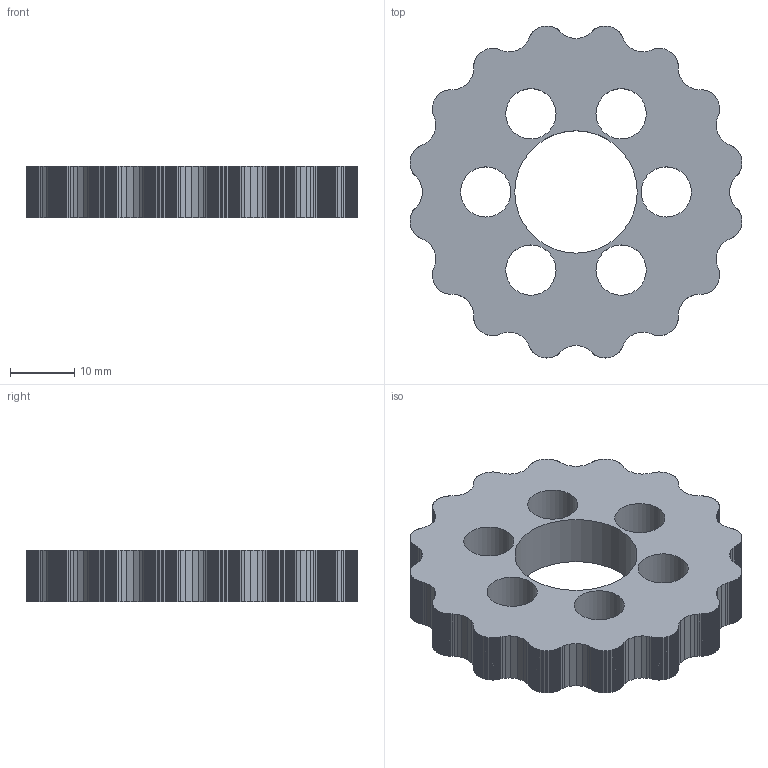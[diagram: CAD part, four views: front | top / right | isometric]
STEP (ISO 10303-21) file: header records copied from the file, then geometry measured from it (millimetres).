
FILE_DESCRIPTION(('FreeCAD Model'),'2;1');
FILE_NAME('Open CASCADE Shape Model','2026-11-09T00:40:17',('FreeCAD'),( 'FreeCAD'),'Open CASCADE STEP processor 7.8','FreeCAD','Unknown');
FILE_SCHEMA(('AUTOMOTIVE_DESIGN { 1 0 10303 214 1 1 1 1 }'));
Length unit declared in the file: millimetre
Products named in the file (1): Open CASCADE STEP translator 7.8 3
Bounding box: 51.52 x 51.52 x 8 mm (x, y, z)
Volume: 11191 mm3; surface area: 5900.1 mm2
Topology: 1 solids, 1 shells, 729 faces, 2181 edges, 1454 vertices
Faces by surface type: plane 722, cylinder 7
Full cylindrical faces by diameter (mm): 7.8 x6, 19 x1
Entity records: 24067 total; most frequent: CARTESIAN_POINT 4365, ORIENTED_EDGE 4362, DIRECTION 3655, EDGE_CURVE 2181, LINE 2167, VECTOR 2167, VERTEX_POINT 1454, AXIS2_PLACEMENT_3D 744
